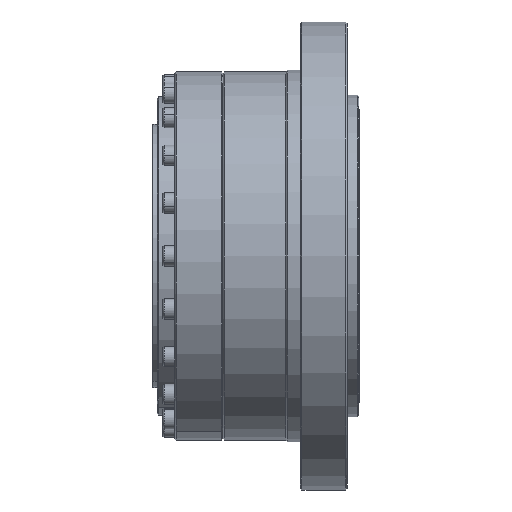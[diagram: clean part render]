
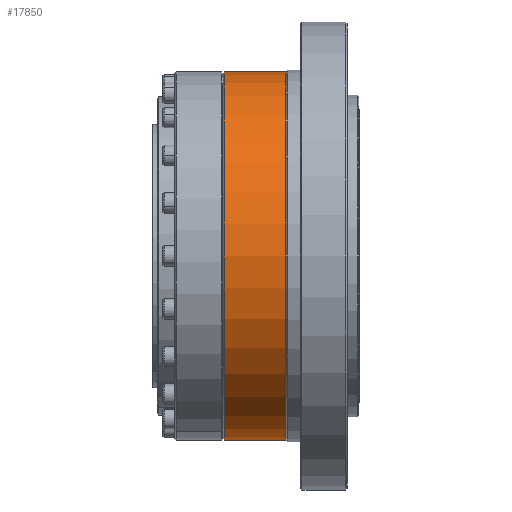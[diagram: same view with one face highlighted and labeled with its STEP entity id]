
A CAD part, front view. The second image highlights one B-rep face of the part: STEP entity #17850.
In plain terms, the highlighted cylindrical face has radius 63 mm (diameter 126 mm), a partial arc.
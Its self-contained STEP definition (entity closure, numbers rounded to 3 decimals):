
#405 = CIRCLE ( 'NONE', #7152, 63. ) ;
#914 = DIRECTION ( 'NONE',  ( -1., 0., 0. ) ) ;
#942 = LINE ( 'NONE', #14522, #16539 ) ;
#2380 = DIRECTION ( 'NONE',  ( 1., 0., 0. ) ) ;
#2530 = LINE ( 'NONE', #4600, #18150 ) ;
#2588 = EDGE_CURVE ( 'NONE', #3938, #3936, #2530, .T. ) ;
#3104 = ORIENTED_EDGE ( 'NONE', *, *, #3320, .T. ) ;
#3320 = EDGE_CURVE ( 'NONE', #10872, #3936, #405, .T. ) ;
#3575 = ORIENTED_EDGE ( 'NONE', *, *, #9349, .T. ) ;
#3936 = VERTEX_POINT ( 'NONE', #5377 ) ;
#3938 = VERTEX_POINT ( 'NONE', #14890 ) ;
#3976 = CARTESIAN_POINT ( 'NONE',  ( -338.333, 7.543, 160. ) ) ;
#4600 = CARTESIAN_POINT ( 'NONE',  ( -338.333, 7.543, 97. ) ) ;
#4959 = EDGE_CURVE ( 'NONE', #3938, #5057, #10928, .T. ) ;
#5057 = VERTEX_POINT ( 'NONE', #19282 ) ;
#5377 = CARTESIAN_POINT ( 'NONE',  ( -33.079, 7.543, 97. ) ) ;
#5512 = DIRECTION ( 'NONE',  ( 0., 0., 1. ) ) ;
#5599 = CYLINDRICAL_SURFACE ( 'NONE', #7229, 63. ) ;
#5728 = ORIENTED_EDGE ( 'NONE', *, *, #4959, .T. ) ;
#7152 = AXIS2_PLACEMENT_3D ( 'NONE', #18057, #2380, #17549 ) ;
#7229 = AXIS2_PLACEMENT_3D ( 'NONE', #3976, #14580, #5512 ) ;
#7395 = EDGE_LOOP ( 'NONE', ( #18277, #5728, #3575, #3104 ) ) ;
#9349 = EDGE_CURVE ( 'NONE', #5057, #10872, #942, .T. ) ;
#10872 = VERTEX_POINT ( 'NONE', #11172 ) ;
#10928 = CIRCLE ( 'NONE', #15066, 63. ) ;
#11172 = CARTESIAN_POINT ( 'NONE',  ( -33.079, 7.543, 223. ) ) ;
#13617 = FACE_OUTER_BOUND ( 'NONE', #7395, .T. ) ;
#14522 = CARTESIAN_POINT ( 'NONE',  ( -338.333, 7.543, 223. ) ) ;
#14580 = DIRECTION ( 'NONE',  ( -1., 0., 0. ) ) ;
#14890 = CARTESIAN_POINT ( 'NONE',  ( -12.079, 7.543, 97. ) ) ;
#15066 = AXIS2_PLACEMENT_3D ( 'NONE', #15729, #15803, #15886 ) ;
#15217 = DIRECTION ( 'NONE',  ( -1., 0., 0. ) ) ;
#15729 = CARTESIAN_POINT ( 'NONE',  ( -12.079, 7.543, 160. ) ) ;
#15803 = DIRECTION ( 'NONE',  ( -1., 0., 0. ) ) ;
#15886 = DIRECTION ( 'NONE',  ( 0., 0., -1. ) ) ;
#16539 = VECTOR ( 'NONE', #15217, 1000. ) ;
#17549 = DIRECTION ( 'NONE',  ( 0., 0., -1. ) ) ;
#17850 = ADVANCED_FACE ( 'NONE', ( #13617 ), #5599, .T. ) ;
#18057 = CARTESIAN_POINT ( 'NONE',  ( -33.079, 7.543, 160. ) ) ;
#18150 = VECTOR ( 'NONE', #914, 1000. ) ;
#18277 = ORIENTED_EDGE ( 'NONE', *, *, #2588, .F. ) ;
#19282 = CARTESIAN_POINT ( 'NONE',  ( -12.079, 7.543, 223. ) ) ;
